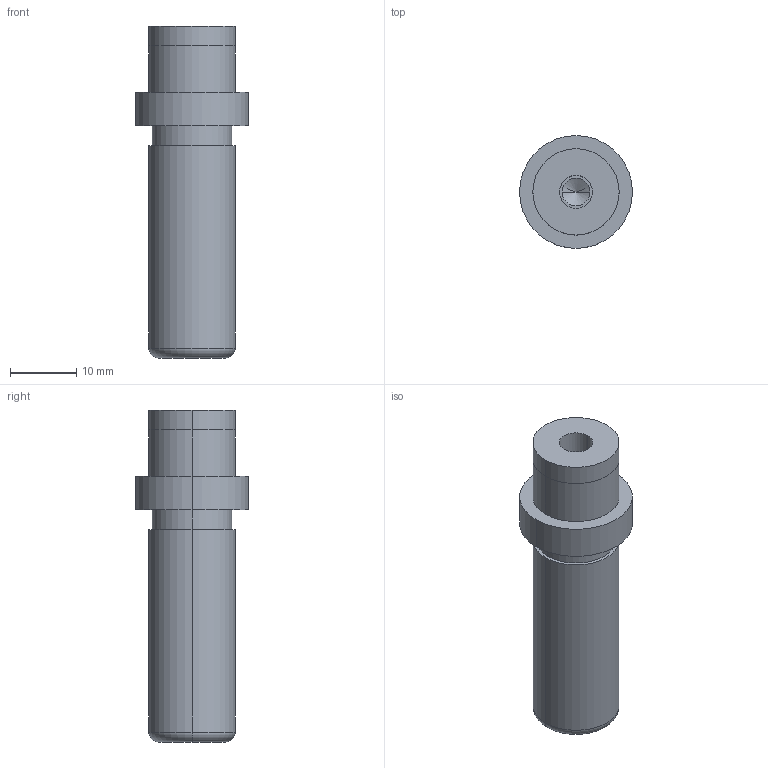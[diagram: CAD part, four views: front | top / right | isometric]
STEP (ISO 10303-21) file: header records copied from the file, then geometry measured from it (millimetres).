
FILE_DESCRIPTION(/* description */ (''),/* implementation_level */ '2;1');
FILE_NAME(/* name */ '3d_sgpw13-40_05299_r00.stp',/* time_stamp */ '2011-01-10T14:11:05+09:00',/* author */ ('MISUMI'),/* organization */ (''),/* preprocessor_version */ 'ST-DEVELOPER v11',/* originating_system */ 'UGS - NX 5.0',/* authorisation */ '');
FILE_SCHEMA (('CONFIG_CONTROL_DESIGN'));
Length unit declared in the file: millimetre
Products named in the file (1): 3d_sgpw13-40_05299_r00
Bounding box: 17 x 17 x 50 mm (x, y, z)
Volume: 6472.8 mm3; surface area: 3011.1 mm2
Topology: 1 solids, 1 shells, 31 faces, 64 edges, 38 vertices
Faces by surface type: cylinder 18, plane 7, cone 4, torus 2
Entity records: 890 total; most frequent: DIRECTION 162, CARTESIAN_POINT 130, ORIENTED_EDGE 120, AXIS2_PLACEMENT_3D 70, EDGE_CURVE 60, EDGE_LOOP 38, CIRCLE 38, VERTEX_POINT 38
